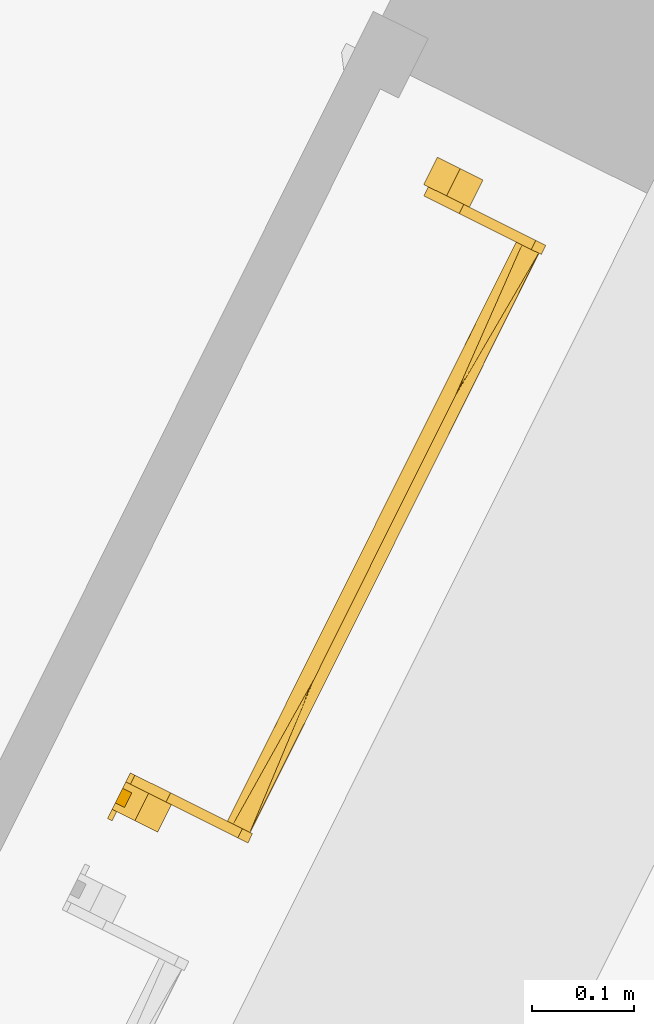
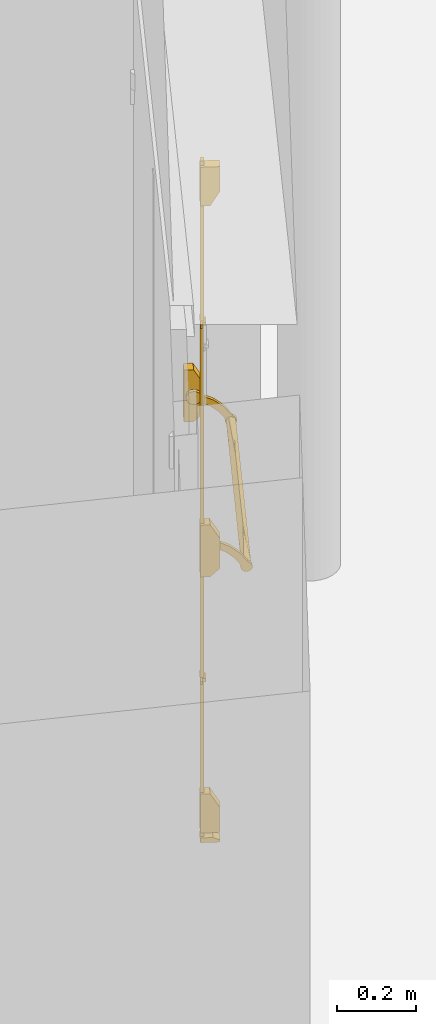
# One storey, part 29 of 91: 1 door.
"""IFC2X3 building model written with IfcOpenShell, lengths in metres."""

import ifcopenshell
import ifcopenshell.guid

model = None  # the IFC model being written
_history = None  # IfcOwnerHistory: only IFC2X3 demands one
_inside = {}  # id of a spatial element -> (the spatial element, [elements in it])
_under = {}  # id of a project, library or spatial element -> (it, [spatial elements below it])
_declared = {}  # id of a project -> (the project, [libraries it declares])
_typed = {}  # id of a type object -> (the type object, [elements of that type])
_made_of = {}  # id of a material, layer set ... -> (it, [elements and type objects made of it])


def new_model(schema):
    """Start an empty IFC model of exactly this schema.

    Asked for "IFC4X3", IfcOpenShell would pick the latest addendum, in which some entities
    have other attributes; the version numbers below select the first issue.
    IFC2X3 requires an IfcOwnerHistory on every rooted entity: one is made here for all.
    """
    global model, _history
    if schema == "IFC4X3":
        model = ifcopenshell.file(schema_version=(4, 3, 0, 0))
    else:
        model = ifcopenshell.file(schema=schema)
    _inside.clear()
    _under.clear()
    _declared.clear()
    _typed.clear()
    _made_of.clear()
    _history = None
    if model.schema == "IFC2X3":
        org = make("IfcOrganization", Name="unknown")
        user = make(
            "IfcPersonAndOrganization",
            ThePerson=make("IfcPerson", FamilyName="unknown"),
            TheOrganization=org,
        )
        app = make(
            "IfcApplication",
            ApplicationDeveloper=org,
            Version="unknown",
            ApplicationFullName="unknown",
            ApplicationIdentifier="unknown",
        )
        _history = make(
            "IfcOwnerHistory",
            OwningUser=user,
            OwningApplication=app,
            ChangeAction="ADDED",
            CreationDate=0,
        )
    return model


def make(cls, **values):
    """One entity of the class cls with the attributes given. An attribute that is None is left unset."""
    return model.create_entity(
        cls, **{name: value for name, value in values.items() if value is not None}
    )


def entity(cls, *values):
    """Any entity or typed value of the class cls, its attributes in the order of the schema. None: left unset."""
    e = model.create_entity(cls)
    for i, value in enumerate(values):
        if value is not None:
            e[i] = value
    return e


def rooted(cls, **values):
    """An entity with a GlobalId (a new one), such as an element, a storey or a relation."""
    return make(cls, GlobalId=ifcopenshell.guid.new(), OwnerHistory=_history, **values)


def si_unit(unit_type, name, prefix=None):
    """IfcSIUnit, for example si_unit("LENGTHUNIT", "METRE", prefix="MILLI")."""
    return make("IfcSIUnit", UnitType=unit_type, Prefix=prefix, Name=name)


def converted_unit(unit_type, name, factor, base, dimensions=None, offset=None):
    """IfcConversionBasedUnit, such as the inch: factor (a typed value) times the base unit."""
    return make(
        "IfcConversionBasedUnit"
        if offset is None
        else "IfcConversionBasedUnitWithOffset",
        ConversionOffset=offset,
        Dimensions=None
        if dimensions is None
        else entity("IfcDimensionalExponents", *dimensions),
        UnitType=unit_type,
        Name=name,
        ConversionFactor=make(
            "IfcMeasureWithUnit", ValueComponent=factor, UnitComponent=base
        ),
    )


def derived_unit(unit_type, elements):
    """IfcDerivedUnit: a product of units, each with its exponent."""
    return make(
        "IfcDerivedUnit",
        Elements=[
            make("IfcDerivedUnitElement", Unit=unit, Exponent=power)
            for unit, power in elements
        ],
        UnitType=unit_type,
    )


def assignment(units):
    """IfcUnitAssignment: the units of a project."""
    return None if units is None else make("IfcUnitAssignment", Units=units)


def point(xyz):
    """IfcCartesianPoint."""
    return None if xyz is None else make("IfcCartesianPoint", Coordinates=xyz)


def direction(xyz):
    """IfcDirection."""
    return None if xyz is None else make("IfcDirection", DirectionRatios=xyz)


def frame(location, z_axis=None, x_axis=None):
    """IfcAxis2Placement3D, a coordinate frame: its origin and axes. An axis left out is left unset."""
    return make(
        "IfcAxis2Placement3D",
        Location=point(location),
        Axis=direction(z_axis),
        RefDirection=direction(x_axis),
    )


def origin():
    """The frame at (0, 0, 0) with its axes left unset."""
    return frame((0.0, 0.0, 0.0))


def place(relative_to, where):
    """IfcLocalPlacement: puts the frame where relative to a parent placement (None: the world)."""
    return make(
        "IfcLocalPlacement", PlacementRelTo=relative_to, RelativePlacement=where
    )


def context(
    kind, dimensions, precision=None, world=None, true_north=None, identifier=None
):
    """IfcGeometricRepresentationContext, for example the 3D "Model" context."""
    return make(
        "IfcGeometricRepresentationContext",
        ContextIdentifier=identifier,
        ContextType=kind,
        CoordinateSpaceDimension=dimensions,
        Precision=precision,
        WorldCoordinateSystem=world,
        TrueNorth=true_north,
    )


def subcontext(parent, identifier, kind, view, scale=None):
    """IfcGeometricRepresentationSubContext, for example "Body" below "Model"."""
    return make(
        "IfcGeometricRepresentationSubContext",
        ContextIdentifier=identifier,
        ContextType=kind,
        ParentContext=parent,
        TargetScale=scale,
        TargetView=view,
    )


def project(units=None, contexts=None):
    """IfcProject with its units and contexts."""
    return rooted(
        "IfcProject",
        Name="project",
        RepresentationContexts=contexts,
        UnitsInContext=assignment(units),
    )


def spatial(cls, under=None, at=None, **own):
    """A site, building, storey or space (cls), placed at a placement, below another one or the project."""
    s = rooted(cls, ObjectPlacement=at, **own)
    if under is not None:
        _under.setdefault(under.id(), (under, []))[1].append(s)
    return s


def faces_of(points, faces, orient=None, outer=None):
    """IfcFace entities. A face is a list of loops; a loop is a list of indices into points, from 0.

    orient and outer hold one flag for each loop. By default every Orientation is true, the
    first loop of a face is its IfcFaceOuterBound and the others are IfcFaceBound.
    """
    made = []
    for i, loops in enumerate(faces):
        bounds = []
        for j, loop in enumerate(loops):
            is_outer = j == 0 if outer is None else outer[i][j]
            bounds.append(
                make(
                    "IfcFaceOuterBound" if is_outer else "IfcFaceBound",
                    Bound=make("IfcPolyLoop", Polygon=[points[k] for k in loop]),
                    Orientation=True if orient is None else orient[i][j],
                )
            )
        made.append(make("IfcFace", Bounds=bounds))
    return made


def faceted_brep(points, faces, orient=None, outer=None, voids=None):
    """IfcFacetedBrep: a solid bounded by flat faces; with voids (closed shells), ...WithVoids."""
    shared = [point(p) for p in points]
    hull = make("IfcClosedShell", CfsFaces=faces_of(shared, faces, orient, outer))
    if voids is None:
        return make("IfcFacetedBrep", Outer=hull)
    return make(
        "IfcFacetedBrepWithVoids",
        Outer=hull,
        Voids=[
            make(cls, CfsFaces=faces_of(shared, fs, o, b)) for cls, fs, o, b in voids
        ],
    )


def shape(context_of_items, identifier, shape_type, items):
    """IfcShapeRepresentation: the items that make up one representation, for example the "Body"."""
    return make(
        "IfcShapeRepresentation",
        ContextOfItems=context_of_items,
        RepresentationIdentifier=identifier,
        RepresentationType=shape_type,
        Items=items,
    )


def source(mapping_origin, context_of_items, identifier, shape_type, items):
    """IfcRepresentationMap: a shape defined once, which mapped items show again and again."""
    return make(
        "IfcRepresentationMap",
        MappingOrigin=mapping_origin,
        MappedRepresentation=shape(context_of_items, identifier, shape_type, items),
    )


def transform(
    local_origin,
    x_axis=None,
    y_axis=None,
    z_axis=None,
    scale=None,
    scale2=None,
    scale3=None,
    uniform=True,
):
    """IfcCartesianTransformationOperator3D, or its non-uniform kind. x_axis, y_axis, z_axis: its Axis1, 2, 3."""
    if uniform:
        return make(
            "IfcCartesianTransformationOperator3D",
            Axis1=direction(x_axis),
            Axis2=direction(y_axis),
            LocalOrigin=point(local_origin),
            Scale=scale,
            Axis3=direction(z_axis),
        )
    return make(
        "IfcCartesianTransformationOperator3DnonUniform",
        Axis1=direction(x_axis),
        Axis2=direction(y_axis),
        LocalOrigin=point(local_origin),
        Scale=scale,
        Axis3=direction(z_axis),
        Scale2=scale2,
        Scale3=scale3,
    )


def mapped(mapping_source, mapping_target):
    """IfcMappedItem: shows the shape of a source again, moved by a transform."""
    return make(
        "IfcMappedItem", MappingSource=mapping_source, MappingTarget=mapping_target
    )


def material(Name=None, Category=None):
    """IfcMaterial."""
    return make("IfcMaterial", Name=Name, Category=Category)


def material_list(materials):
    """IfcMaterialList."""
    return make("IfcMaterialList", Materials=materials)


def made_of(thing, what):
    """Note that an element or type object is made of a material, layer set ...; save() writes the relation."""
    if what is not None:
        _made_of.setdefault(what.id(), (what, []))[1].append(thing)
    return thing


def type_object(cls, material=None, **own):
    """A type object (cls), such as IfcWallType, which elements share."""
    return made_of(rooted(cls, **own), material)


def type_shapes(of_type, sources):
    """Give a type object the sources (RepresentationMaps) that its elements show as mapped items."""
    of_type.RepresentationMaps = sources


def element(
    cls,
    number,
    at=None,
    inside=None,
    cuts=None,
    type_object=None,
    material=None,
    context=None,
    identifier="Body",
    shape_type=None,
    held_by="IfcProductDefinitionShape",
    body=None,
    shapes=None,
    **own,
):
    """One element of the class cls, such as IfcWall. Its Tag is "e" and its number.

    at: its placement. inside: the storey or other place that contains it. cuts: it is an
    opening in that element (IfcRelVoidsElement). A single representation is given by context,
    identifier, shape_type and body (its items); several are given by shapes. held_by: the class
    of the entity that holds the representations. save() writes the other relations.
    """
    e = rooted(cls, Tag="e%d" % number, ObjectPlacement=at, **own)
    if body is not None:
        shapes = [shape(context, identifier, shape_type, body)]
    if shapes is not None:
        e.Representation = make(held_by, Representations=shapes)
    if inside is not None:
        _inside.setdefault(inside.id(), (inside, []))[1].append(e)
    if cuts is not None:
        rooted(
            "IfcRelVoidsElement", RelatingBuildingElement=cuts, RelatedOpeningElement=e
        )
    if type_object is not None:
        _typed.setdefault(type_object.id(), (type_object, []))[1].append(e)
    return made_of(e, material)


def aggregate(whole, parts):
    """IfcRelAggregates: a whole, such as a stair, and the parts it consists of."""
    return rooted("IfcRelAggregates", RelatingObject=whole, RelatedObjects=parts)


def save(model, path):
    """Write the relations noted so far, then the file.

    IfcRelAggregates (storeys below a building ...), IfcRelContainedInSpatialStructure (elements
    in a storey), IfcRelDefinesByType, IfcRelAssociatesMaterial and IfcRelDeclares: one each for
    every whole, place, type object, material and project.
    """
    for whole, parts in _under.values():
        aggregate(whole, parts)
    for where, things in _inside.values():
        rooted(
            "IfcRelContainedInSpatialStructure",
            RelatedElements=things,
            RelatingStructure=where,
        )
    for kind, things in _typed.values():
        rooted("IfcRelDefinesByType", RelatedObjects=things, RelatingType=kind)
    for what, things in _made_of.values():
        rooted("IfcRelAssociatesMaterial", RelatedObjects=things, RelatingMaterial=what)
    for by, libraries in _declared.values():
        rooted("IfcRelDeclares", RelatingContext=by, RelatedDefinitions=libraries)
    model.write(path)


model = new_model("IFC2X3")

# Units and contexts
model_context = context("Model", 3, precision=1e-05, world=origin(), true_north=direction((0.894925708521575, 0.446215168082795)))
context_of_model = context(None, 3, precision=1e-05, world=origin(), true_north=direction((0.894925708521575, 0.446215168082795)))
body_context = subcontext(model_context, "Body", "Model", "MODEL_VIEW")
ifc_project = project(units=[si_unit("LENGTHUNIT", "METRE"), si_unit("AREAUNIT", "SQUARE_METRE"), si_unit("VOLUMEUNIT", "CUBIC_METRE"), converted_unit("PLANEANGLEUNIT", "DEGREE", entity("IfcRatioMeasure", 0.0174532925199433), si_unit("PLANEANGLEUNIT", "RADIAN"), dimensions=[0, 0, 0, 0, 0, 0, 0]), si_unit("MASSUNIT", "GRAM", prefix="KILO"), si_unit("TIMEUNIT", "SECOND"), si_unit("FREQUENCYUNIT", "HERTZ"), si_unit("THERMODYNAMICTEMPERATUREUNIT", "DEGREE_CELSIUS"), derived_unit("THERMALTRANSMITTANCEUNIT", [(si_unit("MASSUNIT", "GRAM", prefix="KILO"), 1), (si_unit("THERMODYNAMICTEMPERATUREUNIT", "KELVIN"), -1), (si_unit("TIMEUNIT", "SECOND"), -3)]), derived_unit("VOLUMETRICFLOWRATEUNIT", [(si_unit("LENGTHUNIT", "METRE"), 3), (si_unit("TIMEUNIT", "SECOND"), -1)]), si_unit("ELECTRICCURRENTUNIT", "AMPERE"), si_unit("ELECTRICVOLTAGEUNIT", "VOLT"), si_unit("POWERUNIT", "WATT"), si_unit("FORCEUNIT", "NEWTON", prefix="KILO"), si_unit("ILLUMINANCEUNIT", "LUX"), si_unit("LUMINOUSFLUXUNIT", "LUMEN"), si_unit("LUMINOUSINTENSITYUNIT", "CANDELA"), si_unit("PRESSUREUNIT", "PASCAL")], contexts=[model_context, context_of_model])

# Site, building, storey
site_placement = place(None, frame((218.228324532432, 584.720189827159, 0.0), z_axis=(0.0, 0.0, 1.0), x_axis=(0.446215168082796, 0.894925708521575, 0.0)))
site = spatial("IfcSite", under=ifc_project, at=site_placement, Name="Default", CompositionType="ELEMENT")
building_placement = place(site_placement, origin())
building = spatial("IfcBuilding", under=site, at=building_placement, CompositionType="ELEMENT")
storey_placement = place(building_placement, origin())
storey = spatial("IfcBuildingStorey", under=building, at=storey_placement, Name="0 - Piano Terra", CompositionType="ELEMENT", Elevation=0.0)

# Door
ifc_material_1 = material(Name="Peinture - Gris fonçé")
ifc_material_2 = material(Name="Peinture - Gris")
ifc_material_list_1 = material_list([ifc_material_1, ifc_material_2])
ifc_material_list_2 = material_list([ifc_material_1, ifc_material_2])
door_style = type_object("IfcDoorStyle", Name="BarreAP", ConstructionType="NOTDEFINED", OperationType="NOTDEFINED", ParameterTakesPrecedence=False, Sizeable=False, material=ifc_material_list_2)
shared_shape = source(origin(), body_context, "Body", "Brep", [
    faceted_brep([(0.660000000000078, -0.115651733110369, 0.814015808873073), (0.660000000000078, -0.112636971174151, 0.815264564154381), (0.660000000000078, -0.110048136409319, 0.817251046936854), (0.660000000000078, -0.108061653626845, 0.819839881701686), (0.660000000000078, -0.106812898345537, 0.822854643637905), (0.660000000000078, -0.106386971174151, 0.826089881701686), (0.660000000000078, -0.106812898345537, 0.829325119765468), (0.660000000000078, -0.108061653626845, 0.832339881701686), (0.660000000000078, -0.110048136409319, 0.834928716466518), (0.660000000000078, -0.112636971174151, 0.836915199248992), (0.660000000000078, -0.115651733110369, 0.838163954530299), (0.660000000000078, -0.118886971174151, 0.838589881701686), (0.660000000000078, -0.122122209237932, 0.838163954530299), (0.660000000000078, -0.125136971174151, 0.836915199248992), (0.660000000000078, -0.127725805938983, 0.834928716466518), (0.660000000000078, -0.129712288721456, 0.832339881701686), (0.660000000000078, -0.130961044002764, 0.829325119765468), (0.660000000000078, -0.131386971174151, 0.826089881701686), (0.660000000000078, -0.130961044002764, 0.822854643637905), (0.660000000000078, -0.129712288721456, 0.819839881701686), (0.660000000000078, -0.127725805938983, 0.817251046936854), (0.660000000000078, -0.125136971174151, 0.815264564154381), (0.660000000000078, -0.122122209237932, 0.814015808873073), (0.660000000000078, -0.118886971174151, 0.813589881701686), (0.0250000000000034, -0.122122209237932, 0.838163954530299), (0.0250000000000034, -0.118886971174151, 0.838589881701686), (0.0250000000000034, -0.115651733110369, 0.838163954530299), (0.0250000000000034, -0.112636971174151, 0.836915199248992), (0.0250000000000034, -0.110048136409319, 0.834928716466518), (0.0250000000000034, -0.108061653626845, 0.832339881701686), (0.0250000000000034, -0.106812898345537, 0.829325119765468), (0.0250000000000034, -0.106386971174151, 0.826089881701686), (0.0250000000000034, -0.106812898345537, 0.822854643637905), (0.0250000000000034, -0.108061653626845, 0.819839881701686), (0.0250000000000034, -0.110048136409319, 0.817251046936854), (0.0250000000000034, -0.112636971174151, 0.815264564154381), (0.0250000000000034, -0.115651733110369, 0.814015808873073), (0.0250000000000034, -0.118886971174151, 0.813589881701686), (0.0250000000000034, -0.122122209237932, 0.814015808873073), (0.0250000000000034, -0.125136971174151, 0.815264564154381), (0.0250000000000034, -0.127725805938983, 0.817251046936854), (0.0250000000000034, -0.129712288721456, 0.819839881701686), (0.0250000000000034, -0.130961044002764, 0.822854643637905), (0.0250000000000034, -0.131386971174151, 0.826089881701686), (0.0250000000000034, -0.130961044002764, 0.829325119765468), (0.0250000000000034, -0.129712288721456, 0.832339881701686), (0.0250000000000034, -0.127725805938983, 0.834928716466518), (0.0250000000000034, -0.125136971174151, 0.836915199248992), (0.187822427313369, -0.117501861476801, 0.813666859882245), (0.148450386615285, -0.131386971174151, 0.826089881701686), (0.342500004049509, -0.117635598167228, 0.813652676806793), (0.27190080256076, -0.106386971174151, 0.826089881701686), (0.342500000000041, -0.106386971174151, 0.826089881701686), (0.413099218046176, -0.106386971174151, 0.826089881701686), (0.497177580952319, -0.117501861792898, 0.813666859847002), (0.536549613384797, -0.131386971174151, 0.826089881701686), (0.342500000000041, -0.131386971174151, 0.826089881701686), (0.413099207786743, -0.131386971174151, 0.826089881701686), (0.536549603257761, -0.106386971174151, 0.826089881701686), (0.14845039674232, -0.106386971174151, 0.826089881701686), (0.271900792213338, -0.131386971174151, 0.826089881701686), (0.49717758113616, -0.120272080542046, 0.83851290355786), (0.187822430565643, -0.120272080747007, 0.838512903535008), (0.342500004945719, -0.120138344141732, 0.838527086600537)], [[[0, 1, 2, 3, 4, 5, 6, 7, 8, 9, 10, 11, 12, 13, 14, 15, 16, 17, 18, 19, 20, 21, 22, 23]], [[24, 25, 26, 27, 28, 29, 30, 31, 32, 33, 34, 35, 36, 37, 38, 39, 40, 41, 42, 43, 44, 45, 46, 47]], [[35, 48, 36]], [[38, 48, 39]], [[39, 49, 40]], [[48, 35, 34]], [[50, 51, 52, 53]], [[23, 54, 0]], [[55, 20, 19]], [[49, 41, 40]], [[55, 54, 21]], [[37, 36, 48]], [[41, 49, 42]], [[42, 49, 43]], [[18, 17, 55]], [[48, 50, 56]], [[54, 56, 50]], [[54, 55, 57, 56]], [[4, 3, 54]], [[55, 19, 18]], [[37, 48, 38]], [[34, 33, 48]], [[32, 48, 33]], [[48, 32, 51]], [[50, 48, 51]], [[4, 53, 58, 5]], [[32, 31, 59, 51]], [[48, 56, 60, 49]], [[20, 55, 21]], [[22, 21, 54]], [[4, 54, 53]], [[23, 22, 54]], [[54, 2, 1]], [[1, 0, 54]], [[49, 39, 48]], [[50, 53, 54]], [[3, 2, 54]], [[16, 15, 61]], [[59, 27, 62]], [[16, 61, 57]], [[62, 27, 26]], [[62, 63, 52]], [[15, 14, 61]], [[8, 7, 58]], [[59, 29, 28]], [[62, 25, 24]], [[58, 61, 9]], [[59, 31, 30]], [[6, 5, 58]], [[11, 61, 12]], [[7, 6, 58]], [[52, 63, 61]], [[25, 62, 26]], [[28, 27, 59]], [[47, 46, 62]], [[61, 58, 53, 52]], [[63, 60, 56, 57]], [[29, 59, 30]], [[45, 62, 46]], [[44, 62, 45]], [[62, 44, 60]], [[63, 62, 60]], [[16, 57, 55, 17]], [[44, 43, 49, 60]], [[47, 62, 24]], [[8, 58, 9]], [[61, 10, 9]], [[11, 10, 61]], [[14, 13, 61]], [[12, 61, 13]], [[63, 57, 61]], [[62, 52, 51, 59]]]),
    faceted_brep([(0.660000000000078, -0.0338758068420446, 0.91792261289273), (0.660000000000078, -0.0289439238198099, 0.919607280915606), (0.660000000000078, -0.0237442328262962, 0.919960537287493), (0.660000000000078, -0.0186298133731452, 0.918958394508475), (0.660000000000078, -0.0139479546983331, 0.916668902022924), (0.660000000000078, -0.0100165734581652, 0.913247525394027), (0.660000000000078, -0.00710262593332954, 0.908926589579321), (0.660000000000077, -0.00540398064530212, 0.903999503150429), (0.660000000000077, -0.00503598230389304, 0.898800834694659), (0.660000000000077, -0.0060236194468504, 0.893683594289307), (0.660000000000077, -0.00829982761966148, 0.888995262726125), (0.660000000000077, -0.0117100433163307, 0.885054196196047), (0.660000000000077, -0.0160226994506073, 0.88212800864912), (0.660000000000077, -0.0209449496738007, 0.880415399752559), (0.660000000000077, -0.0261425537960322, 0.880032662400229), (0.660000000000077, -0.0312625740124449, 0.881005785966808), (0.660000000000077, -0.0359573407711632, 0.883268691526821), (0.660000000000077, -0.039908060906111, 0.886667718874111), (0.660000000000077, -0.065856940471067, 0.873811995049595), (0.660000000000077, -0.0879705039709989, 0.855114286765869), (0.660000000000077, -0.10496092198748, 0.831663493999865), (0.660000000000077, -0.104007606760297, 0.827988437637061), (0.660000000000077, -0.10400755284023, 0.824191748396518), (0.660000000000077, -0.104960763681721, 0.820516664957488), (0.660000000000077, -0.106806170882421, 0.817198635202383), (0.660000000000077, -0.109425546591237, 0.814450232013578), (0.660000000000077, -0.112651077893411, 0.812447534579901), (0.660000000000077, -0.11627611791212, 0.811318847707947), (0.660000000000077, -0.120068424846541, 0.811136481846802), (0.660000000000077, -0.123785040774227, 0.811912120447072), (0.660000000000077, -0.127187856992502, 0.813596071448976), (0.660000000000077, -0.130058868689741, 0.816080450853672), (0.660000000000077, -0.132214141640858, 0.819206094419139), (0.660000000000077, -0.133515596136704, 0.822772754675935), (0.660000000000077, -0.133879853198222, 0.826551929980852), (0.660000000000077, -0.133283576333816, 0.830301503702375), (0.660000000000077, -0.13176496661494, 0.833781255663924), (0.660000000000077, -0.129421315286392, 0.836768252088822), (0.660000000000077, -0.126402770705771, 0.839071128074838), (0.660000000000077, -0.122902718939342, 0.840542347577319), (0.660000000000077, -0.10242643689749, 0.868938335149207), (0.660000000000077, -0.0755453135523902, 0.891366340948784), (0.660000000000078, -0.0439402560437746, 0.906423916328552), (0.660000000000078, -0.041637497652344, 0.911099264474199), (0.660000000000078, -0.0382049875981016, 0.915020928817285), (0.670000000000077, -0.127187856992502, 0.813596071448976), (0.670000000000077, -0.123785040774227, 0.811912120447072), (0.670000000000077, -0.120068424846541, 0.811136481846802), (0.670000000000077, -0.11627611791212, 0.811318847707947), (0.670000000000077, -0.112651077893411, 0.812447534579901), (0.670000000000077, -0.109425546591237, 0.814450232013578), (0.670000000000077, -0.106806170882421, 0.817198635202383), (0.670000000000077, -0.104960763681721, 0.820516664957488), (0.670000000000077, -0.10400755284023, 0.824191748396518), (0.670000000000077, -0.104007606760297, 0.827988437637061), (0.670000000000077, -0.10496092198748, 0.831663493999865), (0.670000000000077, -0.0879705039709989, 0.855114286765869), (0.670000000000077, -0.065856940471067, 0.873811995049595), (0.670000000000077, -0.039908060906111, 0.886667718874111), (0.670000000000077, -0.0359573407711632, 0.883268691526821), (0.670000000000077, -0.0312625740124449, 0.881005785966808), (0.670000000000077, -0.0261425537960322, 0.880032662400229), (0.670000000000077, -0.0209449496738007, 0.880415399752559), (0.670000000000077, -0.0160226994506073, 0.88212800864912), (0.670000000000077, -0.0117100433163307, 0.885054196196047), (0.670000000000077, -0.00829982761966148, 0.888995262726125), (0.670000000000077, -0.0060236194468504, 0.893683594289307), (0.670000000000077, -0.00503598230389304, 0.898800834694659), (0.670000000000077, -0.00540398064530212, 0.903999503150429), (0.670000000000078, -0.00710262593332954, 0.908926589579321), (0.670000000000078, -0.0100165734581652, 0.913247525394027), (0.670000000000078, -0.0139479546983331, 0.916668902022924), (0.670000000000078, -0.0186298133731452, 0.918958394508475), (0.670000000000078, -0.0237442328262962, 0.919960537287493), (0.670000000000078, -0.0289439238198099, 0.919607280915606), (0.670000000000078, -0.0338758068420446, 0.91792261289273), (0.670000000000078, -0.0382049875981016, 0.915020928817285), (0.670000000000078, -0.041637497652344, 0.911099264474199), (0.670000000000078, -0.0439402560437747, 0.906423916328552), (0.670000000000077, -0.0755453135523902, 0.891366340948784), (0.670000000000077, -0.10242643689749, 0.868938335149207), (0.670000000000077, -0.122902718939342, 0.840542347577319), (0.670000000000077, -0.126402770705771, 0.839071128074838), (0.670000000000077, -0.129421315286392, 0.836768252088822), (0.670000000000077, -0.13176496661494, 0.833781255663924), (0.670000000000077, -0.133283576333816, 0.830301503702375), (0.670000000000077, -0.133879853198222, 0.826551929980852), (0.670000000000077, -0.133515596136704, 0.822772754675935), (0.670000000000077, -0.132214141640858, 0.819206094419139), (0.670000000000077, -0.130058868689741, 0.816080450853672)], [[[0, 1, 2, 3, 4, 5, 6, 7, 8, 9, 10, 11, 12, 13, 14, 15, 16, 17, 18, 19, 20, 21, 22, 23, 24, 25, 26, 27, 28, 29, 30, 31, 32, 33, 34, 35, 36, 37, 38, 39, 40, 41, 42, 43, 44]], [[45, 46, 47, 48, 49, 50, 51, 52, 53, 54, 55, 56, 57, 58, 59, 60, 61, 62, 63, 64, 65, 66, 67, 68, 69, 70, 71, 72, 73, 74, 75, 76, 77, 78, 79, 80, 81, 82, 83, 84, 85, 86, 87, 88, 89]], [[77, 43, 42, 78]], [[75, 0, 44, 76]], [[44, 43, 77, 76]], [[1, 0, 75, 74]], [[3, 2, 73, 72]], [[5, 4, 71, 70]], [[72, 71, 4, 3]], [[74, 73, 2, 1]], [[69, 6, 5, 70]], [[6, 69, 68, 7]], [[67, 8, 7, 68]], [[65, 10, 9, 66]], [[9, 8, 67, 66]], [[11, 10, 65, 64]], [[13, 12, 63, 62]], [[15, 14, 61, 60]], [[62, 61, 14, 13]], [[64, 63, 12, 11]], [[59, 16, 15, 60]], [[59, 58, 17, 16]], [[58, 57, 18, 17]], [[57, 56, 19, 18]], [[56, 55, 20, 19]], [[54, 21, 20, 55]], [[52, 23, 22, 53]], [[22, 21, 54, 53]], [[24, 23, 52, 51]], [[26, 25, 50, 49]], [[28, 27, 48, 47]], [[49, 48, 27, 26]], [[51, 50, 25, 24]], [[46, 29, 28, 47]], [[46, 45, 30, 29]], [[89, 31, 30, 45]], [[87, 33, 32, 88]], [[32, 31, 89, 88]], [[34, 33, 87, 86]], [[36, 35, 85, 84]], [[38, 37, 83, 82]], [[84, 83, 37, 36]], [[86, 85, 35, 34]], [[81, 39, 38, 82]], [[81, 80, 40, 39]], [[80, 79, 41, 40]], [[79, 78, 42, 41]]]),
    faceted_brep([(0.025, -0.129421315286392, 0.836768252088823), (0.025, -0.13176496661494, 0.833781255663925), (0.025, -0.133283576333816, 0.830301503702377), (0.025, -0.133879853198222, 0.826551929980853), (0.025, -0.133515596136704, 0.822772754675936), (0.025, -0.132214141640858, 0.819206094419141), (0.025, -0.130058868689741, 0.816080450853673), (0.025, -0.127187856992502, 0.813596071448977), (0.025, -0.123785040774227, 0.811912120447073), (0.025, -0.120068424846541, 0.811136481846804), (0.025, -0.11627611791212, 0.811318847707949), (0.025, -0.112651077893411, 0.812447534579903), (0.025, -0.109425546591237, 0.81445023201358), (0.025, -0.106806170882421, 0.817198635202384), (0.025, -0.104960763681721, 0.82051666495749), (0.025, -0.10400755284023, 0.824191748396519), (0.025, -0.104007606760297, 0.827988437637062), (0.025, -0.10496092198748, 0.831663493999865), (0.025, -0.0879705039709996, 0.85511428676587), (0.025, -0.0658569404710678, 0.873811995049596), (0.025, -0.0399080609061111, 0.886667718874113), (0.025, -0.0359573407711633, 0.883268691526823), (0.025, -0.031262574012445, 0.881005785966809), (0.025, -0.0261425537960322, 0.88003266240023), (0.025, -0.0209449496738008, 0.880415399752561), (0.025, -0.0160226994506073, 0.882128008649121), (0.025, -0.0117100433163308, 0.885054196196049), (0.025, -0.00829982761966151, 0.888995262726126), (0.025, -0.00602361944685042, 0.893683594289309), (0.025, -0.00503598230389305, 0.89880083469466), (0.025, -0.00540398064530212, 0.903999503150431), (0.025, -0.00710262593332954, 0.908926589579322), (0.025, -0.0100165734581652, 0.913247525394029), (0.025, -0.0139479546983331, 0.916668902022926), (0.025, -0.0186298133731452, 0.918958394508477), (0.025, -0.0237442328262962, 0.919960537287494), (0.025, -0.0289439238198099, 0.919607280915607), (0.025, -0.0338758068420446, 0.917922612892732), (0.025, -0.0382049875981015, 0.915020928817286), (0.025, -0.041637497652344, 0.9110992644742), (0.025, -0.0439402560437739, 0.906423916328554), (0.025, -0.0755453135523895, 0.891366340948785), (0.025, -0.10242643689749, 0.868938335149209), (0.025, -0.122902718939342, 0.84054234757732), (0.025, -0.126402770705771, 0.839071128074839), (0.015, -0.00710262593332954, 0.908926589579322), (0.015, -0.00540398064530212, 0.903999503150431), (0.015, -0.00503598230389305, 0.89880083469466), (0.015, -0.00602361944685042, 0.893683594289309), (0.015, -0.00829982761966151, 0.888995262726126), (0.015, -0.0117100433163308, 0.885054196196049), (0.015, -0.0160226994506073, 0.882128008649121), (0.015, -0.0209449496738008, 0.880415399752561), (0.015, -0.0261425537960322, 0.88003266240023), (0.015, -0.031262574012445, 0.881005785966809), (0.015, -0.0359573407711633, 0.883268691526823), (0.015, -0.0399080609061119, 0.886667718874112), (0.015, -0.0658569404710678, 0.873811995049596), (0.015, -0.0879705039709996, 0.85511428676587), (0.015, -0.10496092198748, 0.831663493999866), (0.015, -0.104007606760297, 0.827988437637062), (0.015, -0.10400755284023, 0.824191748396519), (0.015, -0.104960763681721, 0.82051666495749), (0.015, -0.106806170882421, 0.817198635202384), (0.015, -0.109425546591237, 0.81445023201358), (0.015, -0.112651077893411, 0.812447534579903), (0.015, -0.11627611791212, 0.811318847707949), (0.015, -0.120068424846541, 0.811136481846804), (0.015, -0.123785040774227, 0.811912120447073), (0.015, -0.127187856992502, 0.813596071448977), (0.015, -0.130058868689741, 0.816080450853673), (0.015, -0.132214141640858, 0.819206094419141), (0.015, -0.133515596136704, 0.822772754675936), (0.015, -0.133879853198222, 0.826551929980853), (0.015, -0.133283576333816, 0.830301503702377), (0.015, -0.13176496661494, 0.833781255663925), (0.015, -0.129421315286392, 0.836768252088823), (0.015, -0.126402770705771, 0.839071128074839), (0.015, -0.122902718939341, 0.840542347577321), (0.015, -0.10242643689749, 0.868938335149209), (0.015, -0.0755453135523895, 0.891366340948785), (0.015, -0.0439402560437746, 0.906423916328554), (0.015, -0.041637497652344, 0.9110992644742), (0.015, -0.0382049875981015, 0.915020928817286), (0.015, -0.0338758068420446, 0.917922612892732), (0.015, -0.0289439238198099, 0.919607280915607), (0.015, -0.0237442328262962, 0.919960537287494), (0.015, -0.0186298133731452, 0.918958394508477), (0.015, -0.0139479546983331, 0.916668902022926), (0.015, -0.0100165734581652, 0.913247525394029)], [[[0, 1, 2, 3, 4, 5, 6, 7, 8, 9, 10, 11, 12, 13, 14, 15, 16, 17, 18, 19, 20, 21, 22, 23, 24, 25, 26, 27, 28, 29, 30, 31, 32, 33, 34, 35, 36, 37, 38, 39, 40, 41, 42, 43, 44]], [[45, 46, 47, 48, 49, 50, 51, 52, 53, 54, 55, 56, 57, 58, 59, 60, 61, 62, 63, 64, 65, 66, 67, 68, 69, 70, 71, 72, 73, 74, 75, 76, 77, 78, 79, 80, 81, 82, 83, 84, 85, 86, 87, 88, 89]], [[81, 80, 41, 40]], [[80, 79, 42, 41]], [[79, 78, 43, 42]], [[77, 44, 43, 78]], [[75, 1, 0, 76]], [[0, 44, 77, 76]], [[2, 1, 75, 74]], [[4, 3, 73, 72]], [[6, 5, 71, 70]], [[72, 71, 5, 4]], [[74, 73, 3, 2]], [[69, 7, 6, 70]], [[69, 68, 8, 7]], [[67, 9, 8, 68]], [[65, 11, 10, 66]], [[10, 9, 67, 66]], [[12, 11, 65, 64]], [[14, 13, 63, 62]], [[16, 15, 61, 60]], [[62, 61, 15, 14]], [[64, 63, 13, 12]], [[59, 17, 16, 60]], [[59, 58, 18, 17]], [[58, 57, 19, 18]], [[57, 56, 20, 19]], [[55, 21, 20, 56]], [[53, 23, 22, 54]], [[22, 21, 55, 54]], [[24, 23, 53, 52]], [[26, 25, 51, 50]], [[28, 27, 49, 48]], [[50, 49, 27, 26]], [[52, 51, 25, 24]], [[47, 29, 28, 48]], [[29, 47, 46, 30]], [[45, 31, 30, 46]], [[88, 33, 32, 89]], [[32, 31, 45, 89]], [[34, 33, 88, 87]], [[36, 35, 86, 85]], [[38, 37, 84, 83]], [[85, 84, 37, 36]], [[87, 86, 35, 34]], [[82, 39, 38, 83]], [[82, 81, 40, 39]]]),
    faceted_brep([(0.700000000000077, -0.0500000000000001, 0.936698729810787), (0.700000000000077, -0.0500000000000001, 0.844999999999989), (0.700000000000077, -0.0250000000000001, 0.819999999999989), (0.700000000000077, 0.0, 0.819999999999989), (0.700000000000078, 0.0, 0.980000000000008), (0.700000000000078, -0.0250000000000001, 0.980000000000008), (0.670000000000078, -0.0500000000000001, 0.936698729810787), (0.670000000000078, -0.0250000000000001, 0.980000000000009), (0.670000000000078, 0.0, 0.980000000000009), (0.670000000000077, 0.0, 0.819999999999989), (0.670000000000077, -0.0250000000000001, 0.819999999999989), (0.670000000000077, -0.0500000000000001, 0.844999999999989)], [[[0, 1, 2, 3, 4, 5]], [[6, 7, 8, 9, 10, 11]], [[1, 0, 6, 11]], [[2, 1, 11, 10]], [[3, 2, 10, 9]], [[4, 3, 9, 8]], [[5, 4, 8, 7]], [[0, 5, 7, 6]]]),
    faceted_brep([(-0.0129999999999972, -0.005, 1.605), (-0.0129999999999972, -0.015, 1.605), (0.0130000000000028, -0.015, 1.605), (0.013000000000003, -0.005, 1.605), (0.0250000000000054, -0.005, 1.605), (0.0250000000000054, 0.0, 1.605), (0.00800000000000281, 0.0, 1.605), (0.00800000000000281, -0.01, 1.605), (-0.00799999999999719, -0.01, 1.605), (-0.00799999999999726, 0.0, 1.605), (-0.0249999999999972, 0.0, 1.605), (-0.0249999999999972, -0.005, 1.605), (-0.0129999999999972, -0.005, 1.595), (-0.0249999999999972, -0.005, 1.595), (-0.0249999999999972, 0.0, 1.595), (-0.00799999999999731, 0.0, 1.595), (-0.00799999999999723, -0.01, 1.595), (0.00800000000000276, -0.01, 1.595), (0.00800000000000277, 0.0, 1.595), (0.0250000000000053, 0.0, 1.595), (0.0250000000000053, -0.005, 1.595), (0.013000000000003, -0.005, 1.595), (0.0130000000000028, -0.015, 1.595), (-0.0129999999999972, -0.015, 1.595)], [[[0, 1, 2, 3, 4, 5, 6, 7, 8, 9, 10, 11]], [[12, 13, 14, 15, 16, 17, 18, 19, 20, 21, 22, 23]], [[1, 0, 12, 23]], [[2, 1, 23, 22]], [[3, 2, 22, 21]], [[4, 3, 21, 20]], [[5, 4, 20, 19]], [[6, 5, 19, 18]], [[7, 6, 18, 17]], [[8, 7, 17, 16]], [[9, 8, 16, 15]], [[10, 9, 15, 14]], [[11, 10, 14, 13]], [[0, 11, 13, 12]]]),
    faceted_brep([(0.015, -0.0500000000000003, 2.00830127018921), (0.015, -0.0250000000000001, 1.96499999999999), (0.015, 0.0, 1.96499999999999), (0.015, 0.0, 2.08499999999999), (0.015, -0.0500000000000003, 2.08499999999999), (-0.015, -0.0500000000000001, 0.106698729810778), (-0.015, -0.0250000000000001, 0.15), (-0.015, 0.0, 0.15), (-0.015, 0.0, 0.0300000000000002), (-0.015, -0.0500000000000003, 0.0300000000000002), (-0.015, -0.0500000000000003, 2.00830127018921), (-0.015, -0.0250000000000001, 1.96499999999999), (-0.015, 0.0, 1.96499999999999), (-0.008, 0.0, 1.96499999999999), (-0.008, -0.01, 1.96499999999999), (0.008, -0.01, 1.96499999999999), (0.008, 0.0, 1.96499999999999), (0.008, 0.0, 0.98000000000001), (0.015, 0.0, 0.98000000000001), (0.015, 0.0, 0.819999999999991), (0.008, 0.0, 0.819999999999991), (0.008, 0.0, 0.15), (0.015, 0.0, 0.15), (0.015, 0.0, 0.0300000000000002), (0.008, 0.0, 0.0300000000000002), (0.008, 0.0, 0.0149999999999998), (-0.008, 0.0, 0.0149999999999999), (-0.008, 0.0, 0.0300000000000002), (-0.008, 0.0, 0.15), (-0.008, 0.0, 0.819999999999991), (-0.015, 0.0, 0.819999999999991), (-0.015, 0.0, 0.98000000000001), (-0.008, 0.0, 0.98000000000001), (-0.015, 0.0, 2.08499999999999), (-0.008, 0.0, 2.08499999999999), (-0.008, 0.0, 2.1), (0.008, 0.0, 2.1), (0.008, 0.0, 2.08499999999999), (0.008, -0.01, 2.08499999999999), (-0.008, -0.01, 2.08499999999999), (-0.015, -0.0500000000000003, 2.08499999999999), (0.015, -0.0500000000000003, 0.0300000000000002), (0.015, -0.0500000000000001, 0.106698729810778), (-0.008, -0.01, 0.0300000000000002), (0.008, -0.01, 0.0300000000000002), (0.015, -0.0250000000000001, 0.15), (0.008, -0.01, 0.15), (-0.008, -0.01, 0.15), (-0.008, -0.01, 2.1), (0.008, -0.01, 2.1), (0.008, -0.01, 0.0149999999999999), (-0.008, -0.01, 0.0149999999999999), (0.015, -0.025, 0.98000000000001), (0.015, -0.0500000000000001, 0.936698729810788), (0.015, -0.0500000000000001, 0.844999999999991), (0.015, -0.025, 0.819999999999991), (-0.015, -0.025, 0.98000000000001), (-0.015, -0.025, 0.819999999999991), (-0.015, -0.0500000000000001, 0.844999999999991), (-0.015, -0.0500000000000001, 0.936698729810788), (-0.008, -0.01, 0.819999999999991), (0.008, -0.01, 0.819999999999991), (0.008, -0.01, 0.98000000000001), (-0.008, -0.01, 0.98000000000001)], [[[0, 1, 2, 3, 4]], [[5, 6, 7, 8, 9]], [[1, 0, 10, 11]], [[2, 1, 11, 12, 13, 14, 15, 16]], [[3, 2, 16, 17, 18, 19, 20, 21, 22, 23, 24, 25, 26, 27, 8, 7, 28, 29, 30, 31, 32, 13, 12, 33, 34, 35, 36, 37]], [[4, 3, 37, 38, 39, 34, 33, 40]], [[0, 4, 40, 10]], [[41, 42, 5, 9]], [[23, 41, 9, 8, 27, 43, 44, 24]], [[45, 22, 21, 46, 47, 28, 7, 6]], [[42, 45, 6, 5]], [[36, 35, 48, 49]], [[25, 50, 51, 26]], [[48, 35, 34, 39]], [[49, 48, 39, 38]], [[36, 49, 38, 37]], [[52, 53, 54, 55, 19, 18]], [[56, 31, 30, 57, 58, 59]], [[53, 52, 56, 59]], [[54, 53, 59, 58]], [[55, 54, 58, 57]], [[19, 55, 57, 30, 29, 60, 61, 20]], [[52, 18, 17, 62, 63, 32, 31, 56]], [[16, 15, 62, 17]], [[46, 21, 20, 61]], [[50, 25, 24, 44]], [[15, 14, 63, 62]], [[47, 46, 61, 60]], [[51, 50, 44, 43]], [[14, 13, 32, 63]], [[28, 47, 60, 29]], [[26, 51, 43, 27]], [[10, 40, 33, 12, 11]], [[42, 41, 23, 22, 45]]]),
    faceted_brep([(-0.00799999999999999, -0.01, 0.505), (-0.00800000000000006, 0.0, 0.505), (-0.025, 0.0, 0.505), (-0.025, -0.005, 0.505), (-0.013, -0.005, 0.505), (-0.013, -0.015, 0.505), (0.013, -0.015, 0.504999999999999), (0.013, -0.005, 0.504999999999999), (0.0250000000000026, -0.005, 0.504999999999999), (0.0250000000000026, 0.0, 0.504999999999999), (0.00800000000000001, 0.0, 0.504999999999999), (0.00800000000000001, -0.01, 0.504999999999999), (-0.00800000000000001, -0.01, 0.495), (0.00799999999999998, -0.01, 0.494999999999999), (0.00799999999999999, 0.0, 0.494999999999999), (0.0250000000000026, 0.0, 0.494999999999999), (0.0250000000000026, -0.005, 0.494999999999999), (0.013, -0.005, 0.494999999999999), (0.013, -0.015, 0.494999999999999), (-0.013, -0.015, 0.495), (-0.013, -0.005, 0.495), (-0.025, -0.005, 0.495), (-0.025, 0.0, 0.495), (-0.00800000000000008, 0.0, 0.495)], [[[0, 1, 2, 3, 4, 5, 6, 7, 8, 9, 10, 11]], [[12, 13, 14, 15, 16, 17, 18, 19, 20, 21, 22, 23]], [[1, 0, 12, 23]], [[2, 1, 23, 22]], [[3, 2, 22, 21]], [[4, 3, 21, 20]], [[5, 4, 20, 19]], [[6, 5, 19, 18]], [[7, 6, 18, 17]], [[8, 7, 17, 16]], [[9, 8, 16, 15]], [[10, 9, 15, 14]], [[11, 10, 14, 13]], [[0, 11, 13, 12]]]),
    faceted_brep([(0.015, -0.0322782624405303, 0.015), (0.015, -0.0500000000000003, 0.00673621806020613), (0.015, -0.0500000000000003, 0.0), (0.015, 0.0, 0.0), (0.015, 0.0, 0.0149999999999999), (-0.015, -0.0322782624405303, 0.015), (-0.015, 0.0, 0.0149999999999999), (-0.015, 0.0, 0.0), (-0.015, -0.0500000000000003, 0.0), (-0.015, -0.0500000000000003, 0.00673621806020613)], [[[0, 1, 2, 3, 4]], [[5, 6, 7, 8, 9]], [[1, 0, 5, 9]], [[2, 1, 9, 8]], [[3, 2, 8, 7]], [[4, 3, 7, 6]], [[0, 4, 6, 5]]]),
])
type_shapes(door_style, [shared_shape])
door_placement = place(storey_placement, frame((52.2959369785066, 0.998921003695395, 0.0)))
element("IfcDoor", 1, at=door_placement, inside=storey, type_object=door_style, material=ifc_material_list_1, Name="BarreAP:BarreAP", ObjectType="BarreAP", OverallHeight=2.1, OverallWidth=0.760000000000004, context=body_context, shape_type="MappedRepresentation", body=[
    mapped(shared_shape, transform((0.0, 0.0, 0.0), scale=1.0)),
])

save(model, "model.ifc")
